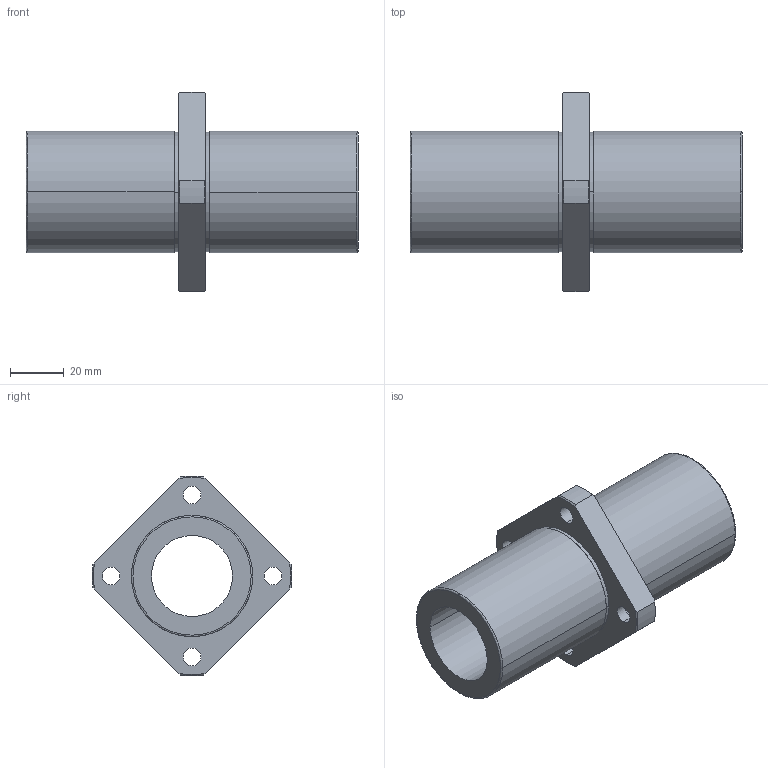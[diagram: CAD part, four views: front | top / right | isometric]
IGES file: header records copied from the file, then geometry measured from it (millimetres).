
Start section: 3D InterOp IGES (Version 21 0 1), Spatial Corp. Copyright (c) 1999-2007.
Global section: file name: NFCS-30VLUU.igs; native system: Spatial Corp.; preprocessor: 3D InterOp GENERIC/IGES 3.0; author: Noname; organization: Noname; date: 20220308.133811; units: millimetre
Bounding box: 123 x 73.97 x 73.95 mm (x, y, z)
Surface area: 35876.5 mm2 (no closed solid volume)
Topology: 0 solids, 0 shells, 59 faces, 292 edges, 292 vertices
Faces by surface type: revolution 45, extrusion 14
